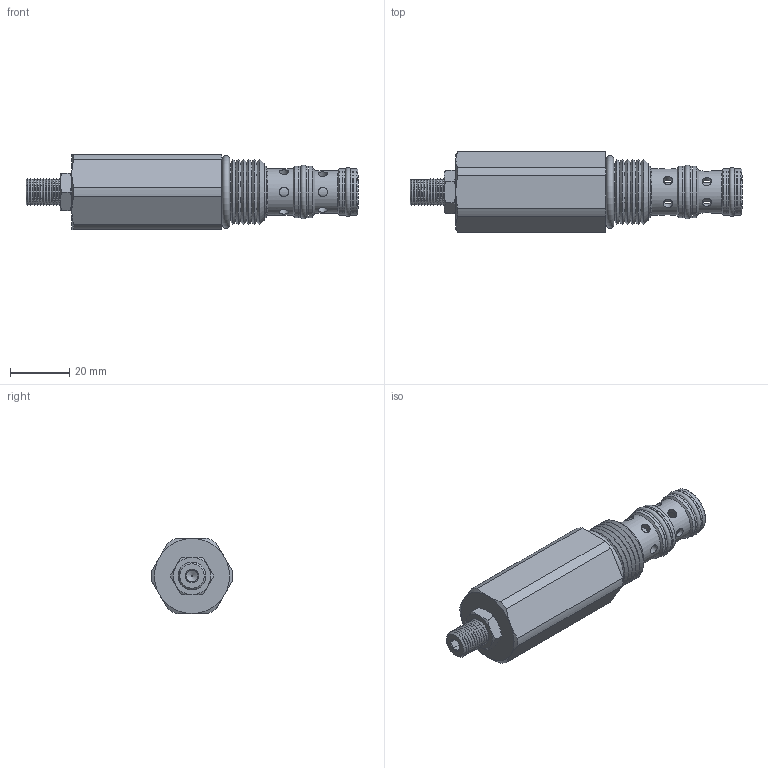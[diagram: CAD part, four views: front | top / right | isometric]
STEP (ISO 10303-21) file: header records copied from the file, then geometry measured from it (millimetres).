
FILE_DESCRIPTION((''),'2;1');
FILE_NAME('Q:\Delta CADD Insertion Codes\3D Solid models\Mechanical Valves\DWG\DFPCT00.stp','2012-12-06T13:16:14',('Dan'),(''),'Autodesk Inventor 2012','Autodesk Inventor 2012','');
FILE_SCHEMA(('AUTOMOTIVE_DESIGN { 1 0 10303 214 1 1 1 1 }'));
Length unit declared in the file: inch
Products named in the file (9): Assembly6; Part66; Part68; Part70; Part72; Part74; Part76; Part78; Part80
Assembly tree (8 placements, depth 2):
  Assembly6
    Part66
    Part68
    Part70
    Part72
    Part74
    Part76
    Part78
    Part80
Bounding box: 112.34 x 27.67 x 25.4 mm (x, y, z)
Volume: 39260.7 mm3; surface area: 13029.9 mm2
Topology: 8 solids, 8 shells, 171 faces, 369 edges, 223 vertices
Faces by surface type: cone 66, plane 55, cylinder 47, torus 3
Full cylindrical faces by diameter (mm): 3.175 x12, 3.962 x1, 6.363 x1, 10.081 x3, 11.097 x5, 11.11 x1, 12.992 x1, 13.043 x2, 14.224 x1, 14.592 x1, 14.643 x2, 15.748 x1, 15.773 x2, 15.786 x2, 17.323 x1, 17.374 x2, 17.386 x2, 19.622 x1
Entity records: 5111 total; most frequent: CARTESIAN_POINT 1595, DIRECTION 709, ORIENTED_EDGE 554, AXIS2_PLACEMENT_3D 333, EDGE_LOOP 295, EDGE_CURVE 277, VERTEX_POINT 208, FACE_OUTER_BOUND 171
